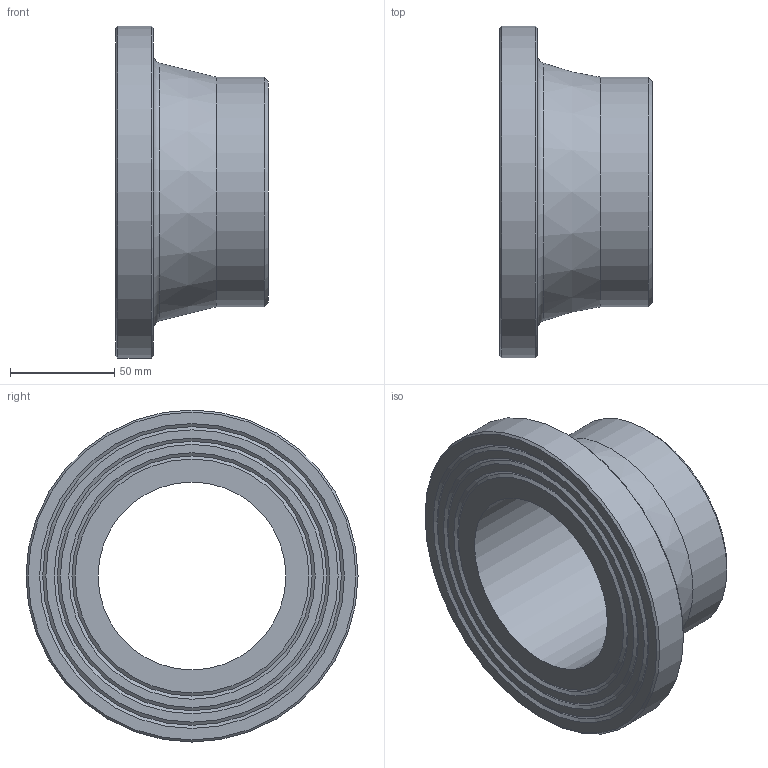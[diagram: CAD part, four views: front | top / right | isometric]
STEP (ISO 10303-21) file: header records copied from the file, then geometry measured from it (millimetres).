
FILE_DESCRIPTION(/* description */ ('Unknown'),/* implementation_level */ '2;1');
FILE_NAME(/* name */ 'CCP110B',/* time_stamp */ '2022-04-04T16:07:17+02:00',/* author */ ('Unknown'),/* organization */ ('Unknown'),/* preprocessor_version */ 'ST-DEVELOPER v18.1',/* originating_system */ 'Solid Edge',/* authorisation */ 'Unknown');
FILE_SCHEMA (('AUTOMOTIVE_DESIGN {1 0 10303 214 3 1 1}'));
Length unit declared in the file: millimetre
Products named in the file (1): CCP110B
Bounding box: 73 x 159 x 159 mm (x, y, z)
Volume: 453883 mm3; surface area: 73417.3 mm2
Topology: 1 solids, 1 shells, 20 faces, 35 edges, 21 vertices
Faces by surface type: cone 10, plane 6, cylinder 3, torus 1
Full cylindrical faces by diameter (mm): 90 x1, 110 x1, 159 x1
Entity records: 438 total; most frequent: DIRECTION 82, CARTESIAN_POINT 61, AXIS2_PLACEMENT_3D 41, ORIENTED_EDGE 40, EDGE_LOOP 40, FACE_BOUND 40, EDGE_CURVE 20, VERTEX_POINT 20
